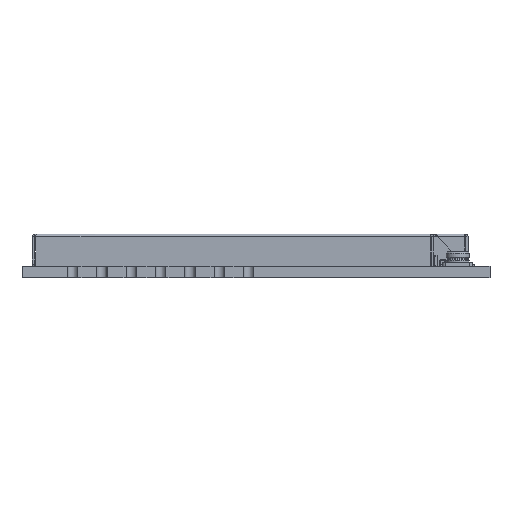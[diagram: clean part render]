
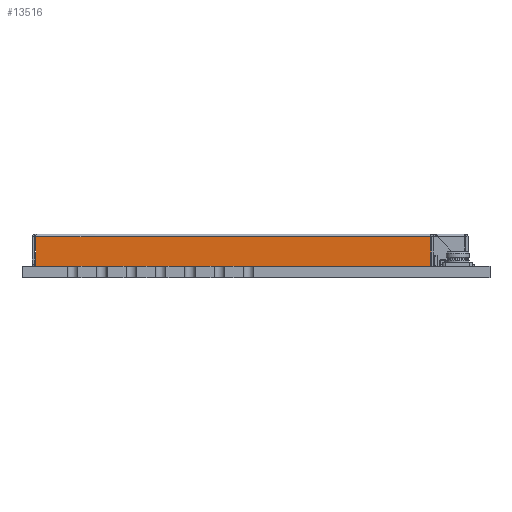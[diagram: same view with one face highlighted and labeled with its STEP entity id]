
A CAD part, front view. The second image highlights one B-rep face of the part: STEP entity #13516.
In plain terms, the highlighted planar face has unit normal (0, -1, 0).
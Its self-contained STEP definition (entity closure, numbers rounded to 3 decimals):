
#7609 = CYLINDRICAL_SURFACE('',#7610,0.22);
#7610 = AXIS2_PLACEMENT_3D('',#7611,#7612,#7613);
#7611 = CARTESIAN_POINT('',(32.731,-10.88,-0.22));
#7612 = DIRECTION('',(-1.,0.,0.));
#7613 = DIRECTION('',(0.,0.,1.));
#12966 = VERTEX_POINT('',#12967);
#12967 = CARTESIAN_POINT('',(15.63,-11.1,-0.22));
#13031 = PLANE('',#13032);
#13032 = AXIS2_PLACEMENT_3D('',#13033,#13034,#13035);
#13033 = CARTESIAN_POINT('',(15.63,-10.9,-0.12));
#13034 = DIRECTION('',(-1.,0.,0.));
#13035 = DIRECTION('',(0.,0.,1.));
#13097 = VERTEX_POINT('',#13098);
#13098 = CARTESIAN_POINT('',(-18.55,-11.1,-0.22));
#13111 = PLANE('',#13112);
#13112 = AXIS2_PLACEMENT_3D('',#13113,#13114,#13115);
#13113 = CARTESIAN_POINT('',(-18.55,-11.1,-2.8));
#13114 = DIRECTION('',(1.,0.,0.));
#13115 = DIRECTION('',(0.,1.,0.));
#13292 = EDGE_CURVE('',#13097,#12966,#13293,.T.);
#13293 = SURFACE_CURVE('',#13294,(#13298,#13327),.PCURVE_S1.);
#13294 = LINE('',#13295,#13296);
#13295 = CARTESIAN_POINT('',(0.,-11.1,-0.22));
#13296 = VECTOR('',#13297,1.);
#13297 = DIRECTION('',(1.,0.,0.));
#13298 = PCURVE('',#7609,#13299);
#13299 = DEFINITIONAL_REPRESENTATION('',(#13300),#13326);
#13300 = B_SPLINE_CURVE_WITH_KNOTS('',3,(#13301,#13302,#13303,#13304,
    #13305,#13306,#13307,#13308,#13309,#13310,#13311,#13312,#13313,
    #13314,#13315,#13316,#13317,#13318,#13319,#13320,#13321,#13322,
    #13323,#13324,#13325),.UNSPECIFIED.,.F.,.F.,(4,1,1,1,1,1,1,1,1,1,1,1
    ,1,1,1,1,1,1,1,1,1,1,4),(-18.55,-16.996,-15.443,
    -13.889,-12.335,-10.782,-9.228,
    -7.675,-6.121,-4.567,-3.014,
    -1.46,0.094,1.647,3.201,
    4.755,6.308,7.862,9.415,
    10.969,12.523,14.076,15.63),
  .UNSPECIFIED.);
#13301 = CARTESIAN_POINT('',(4.712,51.281));
#13302 = CARTESIAN_POINT('',(4.712,50.763));
#13303 = CARTESIAN_POINT('',(4.712,49.727));
#13304 = CARTESIAN_POINT('',(4.712,48.173));
#13305 = CARTESIAN_POINT('',(4.712,46.62));
#13306 = CARTESIAN_POINT('',(4.712,45.066));
#13307 = CARTESIAN_POINT('',(4.712,43.512));
#13308 = CARTESIAN_POINT('',(4.712,41.959));
#13309 = CARTESIAN_POINT('',(4.712,40.405));
#13310 = CARTESIAN_POINT('',(4.712,38.852));
#13311 = CARTESIAN_POINT('',(4.712,37.298));
#13312 = CARTESIAN_POINT('',(4.712,35.744));
#13313 = CARTESIAN_POINT('',(4.712,34.191));
#13314 = CARTESIAN_POINT('',(4.712,32.637));
#13315 = CARTESIAN_POINT('',(4.712,31.083));
#13316 = CARTESIAN_POINT('',(4.712,29.53));
#13317 = CARTESIAN_POINT('',(4.712,27.976));
#13318 = CARTESIAN_POINT('',(4.712,26.422));
#13319 = CARTESIAN_POINT('',(4.712,24.869));
#13320 = CARTESIAN_POINT('',(4.712,23.315));
#13321 = CARTESIAN_POINT('',(4.712,21.762));
#13322 = CARTESIAN_POINT('',(4.712,20.208));
#13323 = CARTESIAN_POINT('',(4.712,18.654));
#13324 = CARTESIAN_POINT('',(4.712,17.618));
#13325 = CARTESIAN_POINT('',(4.712,17.101));
#13326 = ( GEOMETRIC_REPRESENTATION_CONTEXT(2) 
PARAMETRIC_REPRESENTATION_CONTEXT() REPRESENTATION_CONTEXT('2D SPACE',''
  ) );
#13327 = PCURVE('',#13328,#13333);
#13328 = PLANE('',#13329);
#13329 = AXIS2_PLACEMENT_3D('',#13330,#13331,#13332);
#13330 = CARTESIAN_POINT('',(0.,-11.1,
    0.));
#13331 = DIRECTION('',(0.,1.,0.));
#13332 = DIRECTION('',(0.,0.,1.));
#13333 = DEFINITIONAL_REPRESENTATION('',(#13334),#13338);
#13334 = LINE('',#13335,#13336);
#13335 = CARTESIAN_POINT('',(-0.22,0.));
#13336 = VECTOR('',#13337,1.);
#13337 = DIRECTION('',(0.,1.));
#13338 = ( GEOMETRIC_REPRESENTATION_CONTEXT(2) 
PARAMETRIC_REPRESENTATION_CONTEXT() REPRESENTATION_CONTEXT('2D SPACE',''
  ) );
#13349 = VERTEX_POINT('',#13350);
#13350 = CARTESIAN_POINT('',(15.63,-11.1,-2.8));
#13357 = PLANE('',#13358);
#13358 = AXIS2_PLACEMENT_3D('',#13359,#13360,#13361);
#13359 = CARTESIAN_POINT('',(18.55,-11.1,-2.8));
#13360 = DIRECTION('',(0.,0.,1.));
#13361 = DIRECTION('',(0.,-1.,0.));
#13376 = EDGE_CURVE('',#13377,#13349,#13379,.T.);
#13377 = VERTEX_POINT('',#13378);
#13378 = CARTESIAN_POINT('',(-18.55,-11.1,-2.8));
#13379 = SURFACE_CURVE('',#13380,(#13384,#13391),.PCURVE_S1.);
#13380 = LINE('',#13381,#13382);
#13381 = CARTESIAN_POINT('',(-13.696,-11.1,-2.8));
#13382 = VECTOR('',#13383,1.);
#13383 = DIRECTION('',(1.,0.,0.));
#13384 = PCURVE('',#13357,#13385);
#13385 = DEFINITIONAL_REPRESENTATION('',(#13386),#13390);
#13386 = LINE('',#13387,#13388);
#13387 = CARTESIAN_POINT('',(0.,-32.246));
#13388 = VECTOR('',#13389,1.);
#13389 = DIRECTION('',(0.,1.));
#13390 = ( GEOMETRIC_REPRESENTATION_CONTEXT(2) 
PARAMETRIC_REPRESENTATION_CONTEXT() REPRESENTATION_CONTEXT('2D SPACE',''
  ) );
#13391 = PCURVE('',#13328,#13392);
#13392 = DEFINITIONAL_REPRESENTATION('',(#13393),#13397);
#13393 = LINE('',#13394,#13395);
#13394 = CARTESIAN_POINT('',(-2.8,-13.696));
#13395 = VECTOR('',#13396,1.);
#13396 = DIRECTION('',(0.,1.));
#13397 = ( GEOMETRIC_REPRESENTATION_CONTEXT(2) 
PARAMETRIC_REPRESENTATION_CONTEXT() REPRESENTATION_CONTEXT('2D SPACE',''
  ) );
#13495 = EDGE_CURVE('',#13349,#12966,#13496,.T.);
#13496 = SURFACE_CURVE('',#13497,(#13501,#13508),.PCURVE_S1.);
#13497 = LINE('',#13498,#13499);
#13498 = CARTESIAN_POINT('',(15.63,-11.1,0.));
#13499 = VECTOR('',#13500,1.);
#13500 = DIRECTION('',(0.,0.,1.));
#13501 = PCURVE('',#13031,#13502);
#13502 = DEFINITIONAL_REPRESENTATION('',(#13503),#13507);
#13503 = LINE('',#13504,#13505);
#13504 = CARTESIAN_POINT('',(0.12,-0.2));
#13505 = VECTOR('',#13506,1.);
#13506 = DIRECTION('',(1.,0.));
#13507 = ( GEOMETRIC_REPRESENTATION_CONTEXT(2) 
PARAMETRIC_REPRESENTATION_CONTEXT() REPRESENTATION_CONTEXT('2D SPACE',''
  ) );
#13508 = PCURVE('',#13328,#13509);
#13509 = DEFINITIONAL_REPRESENTATION('',(#13510),#13514);
#13510 = LINE('',#13511,#13512);
#13511 = CARTESIAN_POINT('',(0.,15.63));
#13512 = VECTOR('',#13513,1.);
#13513 = DIRECTION('',(1.,0.));
#13514 = ( GEOMETRIC_REPRESENTATION_CONTEXT(2) 
PARAMETRIC_REPRESENTATION_CONTEXT() REPRESENTATION_CONTEXT('2D SPACE',''
  ) );
#13516 = ADVANCED_FACE('',(#13517),#13328,.F.);
#13517 = FACE_BOUND('',#13518,.T.);
#13518 = EDGE_LOOP('',(#13519,#13520,#13521,#13542));
#13519 = ORIENTED_EDGE('',*,*,#13495,.T.);
#13520 = ORIENTED_EDGE('',*,*,#13292,.F.);
#13521 = ORIENTED_EDGE('',*,*,#13522,.T.);
#13522 = EDGE_CURVE('',#13097,#13377,#13523,.T.);
#13523 = SURFACE_CURVE('',#13524,(#13528,#13535),.PCURVE_S1.);
#13524 = LINE('',#13525,#13526);
#13525 = CARTESIAN_POINT('',(-18.55,-11.1,-2.8));
#13526 = VECTOR('',#13527,1.);
#13527 = DIRECTION('',(0.,0.,-1.));
#13528 = PCURVE('',#13328,#13529);
#13529 = DEFINITIONAL_REPRESENTATION('',(#13530),#13534);
#13530 = LINE('',#13531,#13532);
#13531 = CARTESIAN_POINT('',(-2.8,-18.55));
#13532 = VECTOR('',#13533,1.);
#13533 = DIRECTION('',(-1.,0.));
#13534 = ( GEOMETRIC_REPRESENTATION_CONTEXT(2) 
PARAMETRIC_REPRESENTATION_CONTEXT() REPRESENTATION_CONTEXT('2D SPACE',''
  ) );
#13535 = PCURVE('',#13111,#13536);
#13536 = DEFINITIONAL_REPRESENTATION('',(#13537),#13541);
#13537 = LINE('',#13538,#13539);
#13538 = CARTESIAN_POINT('',(0.,0.));
#13539 = VECTOR('',#13540,1.);
#13540 = DIRECTION('',(0.,-1.));
#13541 = ( GEOMETRIC_REPRESENTATION_CONTEXT(2) 
PARAMETRIC_REPRESENTATION_CONTEXT() REPRESENTATION_CONTEXT('2D SPACE',''
  ) );
#13542 = ORIENTED_EDGE('',*,*,#13376,.T.);
